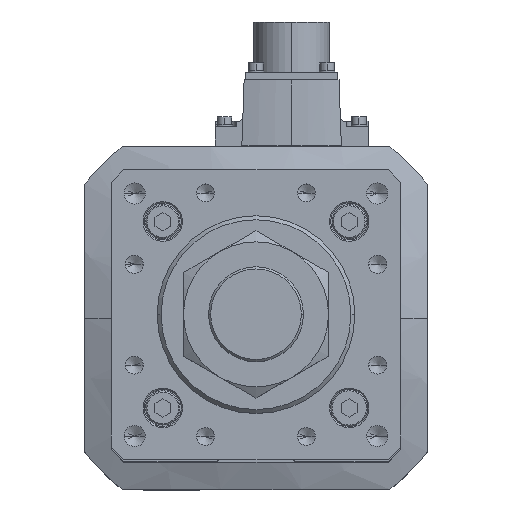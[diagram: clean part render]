
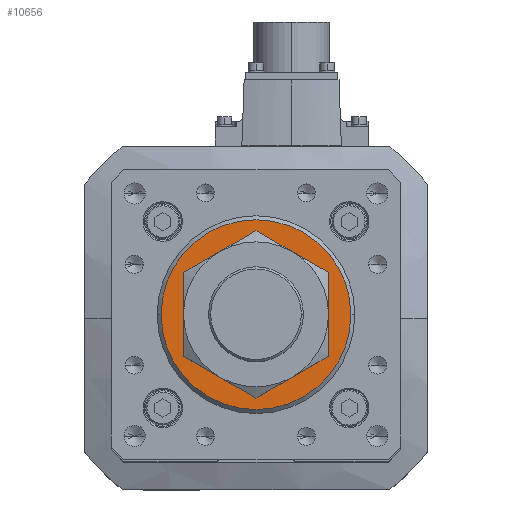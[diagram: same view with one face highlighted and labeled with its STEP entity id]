
A CAD part, top view. The second image highlights one B-rep face of the part: STEP entity #10656.
In plain terms, the highlighted planar face has unit normal (0, 0, 1).
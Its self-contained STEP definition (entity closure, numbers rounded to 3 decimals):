
#16 = EDGE_CURVE ( 'NONE', #10985, #16009, #30220, .T. ) ;
#454 = CARTESIAN_POINT ( 'NONE',  ( 23., 0., 496. ) ) ;
#1989 = CARTESIAN_POINT ( 'NONE',  ( 0., 0., 496. ) ) ;
#2108 = FACE_OUTER_BOUND ( 'NONE', #35287, .T. ) ;
#2568 = CARTESIAN_POINT ( 'NONE',  ( -23., 0., 496. ) ) ;
#3200 = CARTESIAN_POINT ( 'NONE',  ( 0., 0., 496. ) ) ;
#4800 = AXIS2_PLACEMENT_3D ( 'NONE', #27075, #24042, #30120 ) ;
#8682 = VERTEX_POINT ( 'NONE', #2568 ) ;
#8693 = CARTESIAN_POINT ( 'NONE',  ( 0., 0., 496. ) ) ;
#8911 = PLANE ( 'NONE',  #8975 ) ;
#8975 = AXIS2_PLACEMENT_3D ( 'NONE', #3200, #11970, #11463 ) ;
#9493 = EDGE_CURVE ( 'NONE', #16009, #10985, #31841, .T. ) ;
#10656 = ADVANCED_FACE ( 'NONE', ( #32161, #2108 ), #8911, .T. ) ;
#10985 = VERTEX_POINT ( 'NONE', #30558 ) ;
#11463 = DIRECTION ( 'NONE',  ( 1., 0., 0. ) ) ;
#11970 = DIRECTION ( 'NONE',  ( 0., 0., 1. ) ) ;
#12943 = EDGE_CURVE ( 'NONE', #8682, #37676, #18383, .T. ) ;
#13794 = DIRECTION ( 'NONE',  ( 0., 0., -1. ) ) ;
#14525 = DIRECTION ( 'NONE',  ( 0., 0., 1. ) ) ;
#15457 = DIRECTION ( 'NONE',  ( 0., 0., -1. ) ) ;
#15537 = CIRCLE ( 'NONE', #37300, 23. ) ;
#16009 = VERTEX_POINT ( 'NONE', #20446 ) ;
#18383 = CIRCLE ( 'NONE', #36884, 23. ) ;
#19035 = ORIENTED_EDGE ( 'NONE', *, *, #16, .T. ) ;
#19899 = DIRECTION ( 'NONE',  ( 1., 0., 0. ) ) ;
#20446 = CARTESIAN_POINT ( 'NONE',  ( 36., 0., 496. ) ) ;
#24042 = DIRECTION ( 'NONE',  ( 0., 0., 1. ) ) ;
#25125 = EDGE_LOOP ( 'NONE', ( #29243, #35032 ) ) ;
#27075 = CARTESIAN_POINT ( 'NONE',  ( 0., 0., 496. ) ) ;
#29243 = ORIENTED_EDGE ( 'NONE', *, *, #35537, .T. ) ;
#30019 = CARTESIAN_POINT ( 'NONE',  ( 0., 0., 496. ) ) ;
#30120 = DIRECTION ( 'NONE',  ( 1., 0., 0. ) ) ;
#30220 = CIRCLE ( 'NONE', #36947, 36. ) ;
#30558 = CARTESIAN_POINT ( 'NONE',  ( -36., 0., 496. ) ) ;
#31841 = CIRCLE ( 'NONE', #4800, 36. ) ;
#32161 = FACE_BOUND ( 'NONE', #25125, .T. ) ;
#34910 = ORIENTED_EDGE ( 'NONE', *, *, #9493, .T. ) ;
#34939 = DIRECTION ( 'NONE',  ( 1., 0., 0. ) ) ;
#35032 = ORIENTED_EDGE ( 'NONE', *, *, #12943, .T. ) ;
#35287 = EDGE_LOOP ( 'NONE', ( #19035, #34910 ) ) ;
#35537 = EDGE_CURVE ( 'NONE', #37676, #8682, #15537, .T. ) ;
#35870 = DIRECTION ( 'NONE',  ( 1., 0., 0. ) ) ;
#36884 = AXIS2_PLACEMENT_3D ( 'NONE', #1989, #13794, #19899 ) ;
#36947 = AXIS2_PLACEMENT_3D ( 'NONE', #8693, #14525, #34939 ) ;
#37300 = AXIS2_PLACEMENT_3D ( 'NONE', #30019, #15457, #35870 ) ;
#37676 = VERTEX_POINT ( 'NONE', #454 ) ;
